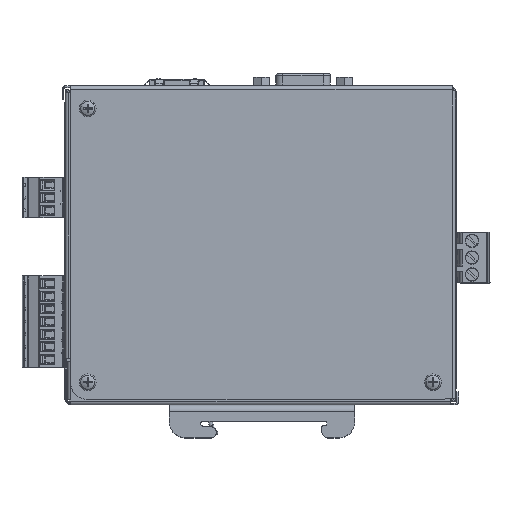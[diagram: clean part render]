
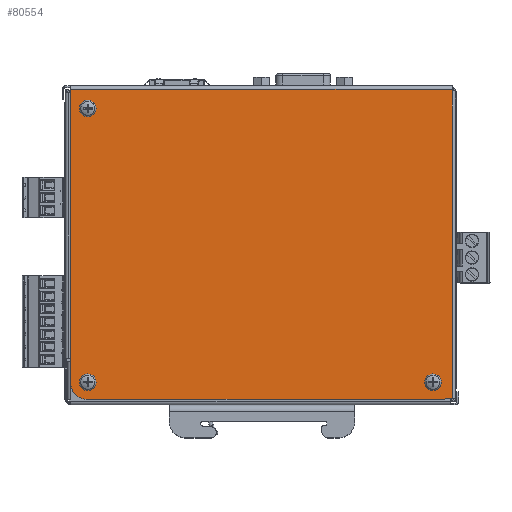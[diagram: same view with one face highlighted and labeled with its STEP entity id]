
A CAD part, top view. The second image highlights one B-rep face of the part: STEP entity #80554.
In plain terms, the highlighted planar face has unit normal (0, 0, 1).
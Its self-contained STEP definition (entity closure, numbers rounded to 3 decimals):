
#4187=FACE_BOUND('',#11189,.T.);
#4188=FACE_BOUND('',#11190,.T.);
#4189=FACE_BOUND('',#11191,.T.);
#7028=FACE_OUTER_BOUND('',#11188,.T.);
#11188=EDGE_LOOP('',(#66517,#66518,#66519,#66520,#66521,#66522,#66523,#66524,
#66525));
#11189=EDGE_LOOP('',(#66526));
#11190=EDGE_LOOP('',(#66527));
#11191=EDGE_LOOP('',(#66528));
#13413=CIRCLE('',#84761,2.5);
#13479=CIRCLE('',#84885,2.5);
#13509=CIRCLE('',#84942,2.5);
#13959=CIRCLE('',#86116,0.5);
#13975=CIRCLE('',#86156,5.2);
#19822=LINE('',#129442,#27942);
#19825=LINE('',#129454,#27945);
#19901=LINE('',#129664,#28021);
#19903=LINE('',#129669,#28023);
#19906=LINE('',#129678,#28026);
#19935=LINE('',#129755,#28055);
#19942=LINE('',#129770,#28062);
#27942=VECTOR('',#101677,10.);
#27945=VECTOR('',#101690,10.);
#28021=VECTOR('',#101900,10.);
#28023=VECTOR('',#101904,10.);
#28026=VECTOR('',#101919,10.);
#28055=VECTOR('',#102004,10.);
#28062=VECTOR('',#102021,10.);
#34503=VERTEX_POINT('',#123313);
#34608=VERTEX_POINT('',#123984);
#34658=VERTEX_POINT('',#124311);
#35829=VERTEX_POINT('',#129391);
#35845=VERTEX_POINT('',#129440);
#35849=VERTEX_POINT('',#129452);
#35912=VERTEX_POINT('',#129653);
#35916=VERTEX_POINT('',#129662);
#35917=VERTEX_POINT('',#129666);
#35918=VERTEX_POINT('',#129668);
#35937=VERTEX_POINT('',#129752);
#35941=VERTEX_POINT('',#129768);
#45254=EDGE_CURVE('',#34503,#34503,#13413,.T.);
#45410=EDGE_CURVE('',#34608,#34608,#13479,.T.);
#45484=EDGE_CURVE('',#34658,#34658,#13509,.T.);
#47293=EDGE_CURVE('',#35829,#35845,#19822,.T.);
#47299=EDGE_CURVE('',#35845,#35849,#19825,.T.);
#47404=EDGE_CURVE('',#35912,#35916,#19901,.T.);
#47406=EDGE_CURVE('',#35918,#35917,#19903,.T.);
#47408=EDGE_CURVE('',#35912,#35917,#13959,.T.);
#47412=EDGE_CURVE('',#35916,#35829,#19906,.T.);
#47451=EDGE_CURVE('',#35849,#35937,#19935,.T.);
#47460=EDGE_CURVE('',#35941,#35918,#19942,.T.);
#47462=EDGE_CURVE('',#35941,#35937,#13975,.T.);
#66517=ORIENTED_EDGE('',*,*,#47462,.F.);
#66518=ORIENTED_EDGE('',*,*,#47460,.T.);
#66519=ORIENTED_EDGE('',*,*,#47406,.T.);
#66520=ORIENTED_EDGE('',*,*,#47408,.F.);
#66521=ORIENTED_EDGE('',*,*,#47404,.T.);
#66522=ORIENTED_EDGE('',*,*,#47412,.T.);
#66523=ORIENTED_EDGE('',*,*,#47293,.T.);
#66524=ORIENTED_EDGE('',*,*,#47299,.T.);
#66525=ORIENTED_EDGE('',*,*,#47451,.T.);
#66526=ORIENTED_EDGE('',*,*,#45254,.T.);
#66527=ORIENTED_EDGE('',*,*,#45410,.T.);
#66528=ORIENTED_EDGE('',*,*,#45484,.T.);
#73982=PLANE('',#86322);
#80554=ADVANCED_FACE('',(#7028,#4187,#4188,#4189),#73982,.F.);
#84761=AXIS2_PLACEMENT_3D('',#123314,#97820,#97821);
#84885=AXIS2_PLACEMENT_3D('',#123985,#98110,#98111);
#84942=AXIS2_PLACEMENT_3D('',#124312,#98244,#98245);
#86116=AXIS2_PLACEMENT_3D('',#129672,#101908,#101909);
#86156=AXIS2_PLACEMENT_3D('',#129773,#102026,#102027);
#86322=AXIS2_PLACEMENT_3D('',#130259,#102519,#102520);
#97820=DIRECTION('center_axis',(0.,0.,
-1.));
#97821=DIRECTION('ref_axis',(0.,1.,0.));
#98110=DIRECTION('center_axis',(0.,0.,
-1.));
#98111=DIRECTION('ref_axis',(0.,1.,0.));
#98244=DIRECTION('center_axis',(0.,0.,
-1.));
#98245=DIRECTION('ref_axis',(0.,1.,0.));
#101677=DIRECTION('',(0.,1.,0.));
#101690=DIRECTION('',(-1.,0.,0.));
#101900=DIRECTION('',(1.,0.,0.));
#101904=DIRECTION('',(0.707,0.707,0.));
#101908=DIRECTION('center_axis',(0.,0.,
1.));
#101909=DIRECTION('ref_axis',(-0.383,0.924,0.));
#101919=DIRECTION('',(0.,1.,0.));
#102004=DIRECTION('',(0.,-1.,0.));
#102021=DIRECTION('',(1.,0.,0.));
#102026=DIRECTION('center_axis',(0.,0.,
-1.));
#102027=DIRECTION('ref_axis',(-0.707,-0.707,0.));
#102519=DIRECTION('center_axis',(0.,0.,
-1.));
#102520=DIRECTION('ref_axis',(1.,0.,0.));
#123313=CARTESIAN_POINT('',(-51.2,39.8,30.8));
#123314=CARTESIAN_POINT('Origin',(-51.2,42.3,30.8));
#123984=CARTESIAN_POINT('',(-51.2,-42.7,30.8));
#123985=CARTESIAN_POINT('Origin',(-51.2,-40.2,30.8));
#124311=CARTESIAN_POINT('',(52.8,-42.7,30.8));
#124312=CARTESIAN_POINT('Origin',(52.8,-40.2,30.8));
#129391=CARTESIAN_POINT('',(58.6,47.55,30.8));
#129440=CARTESIAN_POINT('',(58.6,48.1,30.8));
#129442=CARTESIAN_POINT('',(58.6,25.35,30.8));
#129452=CARTESIAN_POINT('',(-56.4,48.1,30.8));
#129454=CARTESIAN_POINT('',(-29.275,48.1,30.8));
#129653=CARTESIAN_POINT('',(56.807,-45.025,30.8));
#129662=CARTESIAN_POINT('',(58.6,-45.025,30.8));
#129664=CARTESIAN_POINT('',(28.475,-45.025,30.8));
#129666=CARTESIAN_POINT('',(56.454,-45.171,30.8));
#129668=CARTESIAN_POINT('',(56.225,-45.4,30.8));
#129669=CARTESIAN_POINT('',(54.006,-47.619,30.8));
#129672=CARTESIAN_POINT('Origin',(56.807,-45.525,30.8));
#129678=CARTESIAN_POINT('',(58.6,25.35,30.8));
#129752=CARTESIAN_POINT('',(-56.4,-40.2,30.8));
#129755=CARTESIAN_POINT('',(-56.4,25.35,30.8));
#129768=CARTESIAN_POINT('',(-51.2,-45.4,30.8));
#129770=CARTESIAN_POINT('',(-29.275,-45.4,30.8));
#129773=CARTESIAN_POINT('Origin',(-51.2,-40.2,30.8));
#130259=CARTESIAN_POINT('Origin',(0.35,1.6,30.8));
